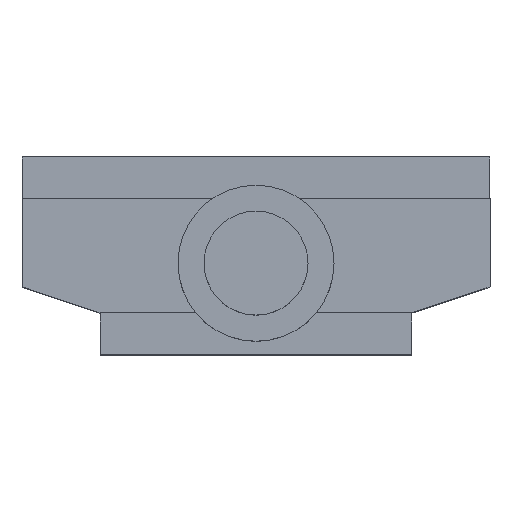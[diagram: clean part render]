
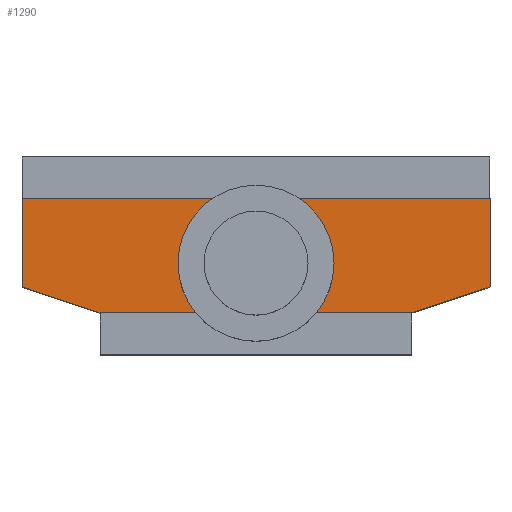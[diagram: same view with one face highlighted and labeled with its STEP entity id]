
A CAD part, top view. The second image highlights one B-rep face of the part: STEP entity #1290.
In plain terms, the highlighted planar face has unit normal (0, 0, 1).
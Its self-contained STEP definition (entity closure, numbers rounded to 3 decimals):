
#111 = VERTEX_POINT ( 'NONE', #1588 ) ;
#121 = VERTEX_POINT ( 'NONE', #1788 ) ;
#165 = EDGE_CURVE ( 'NONE', #121, #111, #1846, .T. ) ;
#324 = VERTEX_POINT ( 'NONE', #2165 ) ;
#338 = EDGE_CURVE ( 'NONE', #324, #820, #2092, .T. ) ;
#820 = VERTEX_POINT ( 'NONE', #2976 ) ;
#881 = EDGE_CURVE ( 'NONE', #882, #324, #3066, .T. ) ;
#882 = VERTEX_POINT ( 'NONE', #3062 ) ;
#898 = EDGE_CURVE ( 'NONE', #882, #899, #3038, .T. ) ;
#899 = VERTEX_POINT ( 'NONE', #3034 ) ;
#920 = VERTEX_POINT ( 'NONE', #3000 ) ;
#1188 = EDGE_LOOP ( 'NONE', ( #1189, #1190, #1191, #1192, #1195, #1196 ) ) ;
#1189 = ORIENTED_EDGE ( 'NONE', *, *, #338, .T. ) ;
#1190 = ORIENTED_EDGE ( 'NONE', *, *, #1294, .T. ) ;
#1191 = ORIENTED_EDGE ( 'NONE', *, *, #1296, .T. ) ;
#1192 = ORIENTED_EDGE ( 'NONE', *, *, #1295, .F. ) ;
#1195 = ORIENTED_EDGE ( 'NONE', *, *, #898, .F. ) ;
#1196 = ORIENTED_EDGE ( 'NONE', *, *, #881, .T. ) ;
#1200 = VERTEX_POINT ( 'NONE', #3395 ) ;
#1282 = EDGE_LOOP ( 'NONE', ( #1291, #1303 ) ) ;
#1289 = EDGE_CURVE ( 'NONE', #111, #121, #3559, .T. ) ;
#1290 = ADVANCED_FACE ( 'NONE', ( #3560, #3554 ), #3591, .F. ) ;
#1291 = ORIENTED_EDGE ( 'NONE', *, *, #165, .T. ) ;
#1294 = EDGE_CURVE ( 'NONE', #820, #1200, #3691, .T. ) ;
#1295 = EDGE_CURVE ( 'NONE', #899, #920, #3687, .T. ) ;
#1296 = EDGE_CURVE ( 'NONE', #1200, #920, #3550, .T. ) ;
#1303 = ORIENTED_EDGE ( 'NONE', *, *, #1289, .T. ) ;
#1588 = CARTESIAN_POINT ( 'NONE',  ( 6., 17.5, 20. ) ) ;
#1788 = CARTESIAN_POINT ( 'NONE',  ( -6., 17.5, 20. ) ) ;
#1842 = DIRECTION ( 'NONE',  ( -1., 0., 0. ) ) ;
#1843 = DIRECTION ( 'NONE',  ( 0., 0., -1. ) ) ;
#1844 = CARTESIAN_POINT ( 'NONE',  ( 0., 17.5, 20. ) ) ;
#1845 = AXIS2_PLACEMENT_3D ( 'NONE', #1844, #1843, #1842 ) ;
#1846 = CIRCLE ( 'NONE', #1845, 6. ) ;
#2076 = DIRECTION ( 'NONE',  ( 1., 0., 0. ) ) ;
#2077 = VECTOR ( 'NONE', #2076, 1000. ) ;
#2086 = CARTESIAN_POINT ( 'NONE',  ( -45., 8., 20. ) ) ;
#2092 = LINE ( 'NONE', #2086, #2077 ) ;
#2165 = CARTESIAN_POINT ( 'NONE',  ( -30., 8., 20. ) ) ;
#2976 = CARTESIAN_POINT ( 'NONE',  ( 30., 8., 20. ) ) ;
#3000 = CARTESIAN_POINT ( 'NONE',  ( 45., 30., 20. ) ) ;
#3034 = CARTESIAN_POINT ( 'NONE',  ( -45., 30., 20. ) ) ;
#3035 = DIRECTION ( 'NONE',  ( 0., 1., 0. ) ) ;
#3036 = VECTOR ( 'NONE', #3035, 1000. ) ;
#3037 = CARTESIAN_POINT ( 'NONE',  ( -45., 8., 20. ) ) ;
#3038 = LINE ( 'NONE', #3037, #3036 ) ;
#3062 = CARTESIAN_POINT ( 'NONE',  ( -45., 13., 20. ) ) ;
#3063 = DIRECTION ( 'NONE',  ( 0.949, -0.316, 0. ) ) ;
#3064 = VECTOR ( 'NONE', #3063, 1000. ) ;
#3065 = CARTESIAN_POINT ( 'NONE',  ( -45., 13., 20. ) ) ;
#3066 = LINE ( 'NONE', #3065, #3064 ) ;
#3395 = CARTESIAN_POINT ( 'NONE',  ( 45., 13., 20. ) ) ;
#3547 = DIRECTION ( 'NONE',  ( 0., 1., 0. ) ) ;
#3548 = VECTOR ( 'NONE', #3547, 1000. ) ;
#3549 = CARTESIAN_POINT ( 'NONE',  ( 45., 8., 20. ) ) ;
#3550 = LINE ( 'NONE', #3549, #3548 ) ;
#3551 = DIRECTION ( 'NONE',  ( 1., 0., 0. ) ) ;
#3552 = VECTOR ( 'NONE', #3551, 1000. ) ;
#3553 = CARTESIAN_POINT ( 'NONE',  ( -45., 30., 20. ) ) ;
#3554 = FACE_OUTER_BOUND ( 'NONE', #1188, .T. ) ;
#3555 = DIRECTION ( 'NONE',  ( -1., 0., 0. ) ) ;
#3556 = DIRECTION ( 'NONE',  ( 0., 0., -1. ) ) ;
#3557 = CARTESIAN_POINT ( 'NONE',  ( 0., 17.5, 20. ) ) ;
#3558 = AXIS2_PLACEMENT_3D ( 'NONE', #3557, #3556, #3555 ) ;
#3559 = CIRCLE ( 'NONE', #3558, 6. ) ;
#3560 = FACE_BOUND ( 'NONE', #1282, .T. ) ;
#3581 = DIRECTION ( 'NONE',  ( -1., 0., 0. ) ) ;
#3588 = DIRECTION ( 'NONE',  ( 0., 0., -1. ) ) ;
#3589 = CARTESIAN_POINT ( 'NONE',  ( -45., 8., 20. ) ) ;
#3590 = AXIS2_PLACEMENT_3D ( 'NONE', #3589, #3588, #3581 ) ;
#3591 = PLANE ( 'NONE',  #3590 ) ;
#3687 = LINE ( 'NONE', #3553, #3552 ) ;
#3688 = DIRECTION ( 'NONE',  ( 0.949, 0.316, 0. ) ) ;
#3689 = VECTOR ( 'NONE', #3688, 1000. ) ;
#3690 = CARTESIAN_POINT ( 'NONE',  ( 30., 8., 20. ) ) ;
#3691 = LINE ( 'NONE', #3690, #3689 ) ;
